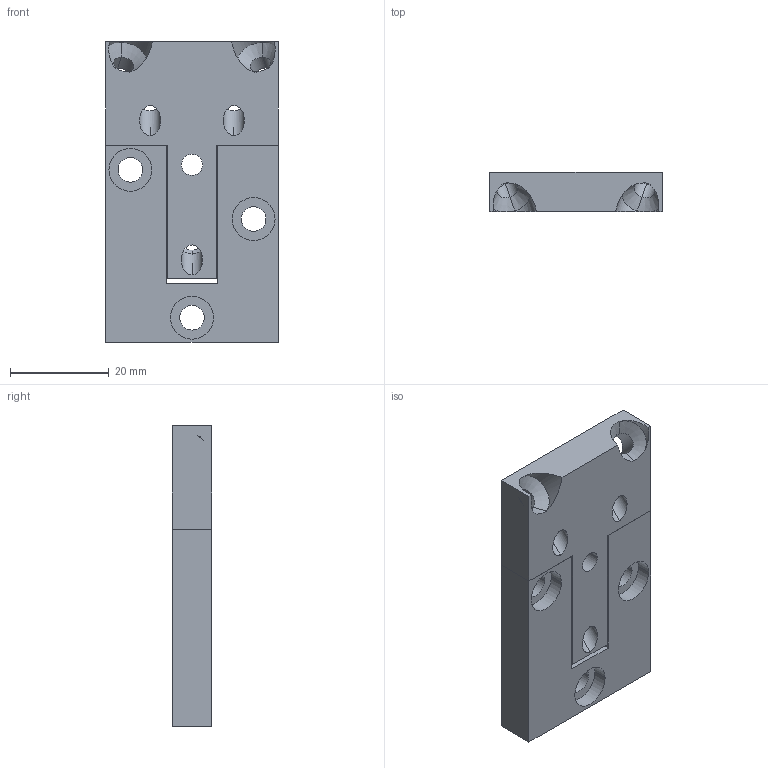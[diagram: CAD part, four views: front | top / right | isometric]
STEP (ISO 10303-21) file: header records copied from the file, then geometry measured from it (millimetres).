
FILE_DESCRIPTION(('STEP AP242'),'1');
FILE_NAME('OPO_86.880.40_volu_3d.stp','2026-04-30T13:30:43',(' '),(' '),'Spatial InterOp 3D',' ',' ');
FILE_SCHEMA(('AP242_MANAGED_MODEL_BASED_3D_ENGINEERING_MIM_LF {1 0 10303 442 1 1 4}'));
Length unit declared in the file: millimetre
Products named in the file (1): 1
Bounding box: 35 x 8 x 61 mm (x, y, z)
Volume: 13912.9 mm3; surface area: 8534.2 mm2
Topology: 2 solids, 2 shells, 123 faces, 326 edges, 212 vertices
Faces by surface type: cylinder 56, plane 55, cone 12
Entity records: 4972 total; most frequent: CARTESIAN_POINT 743, DIRECTION 696, ORIENTED_EDGE 652, EDGE_CURVE 326, AXIS2_PLACEMENT_3D 253, VERTEX_POINT 212, LINE 190, VECTOR 190
